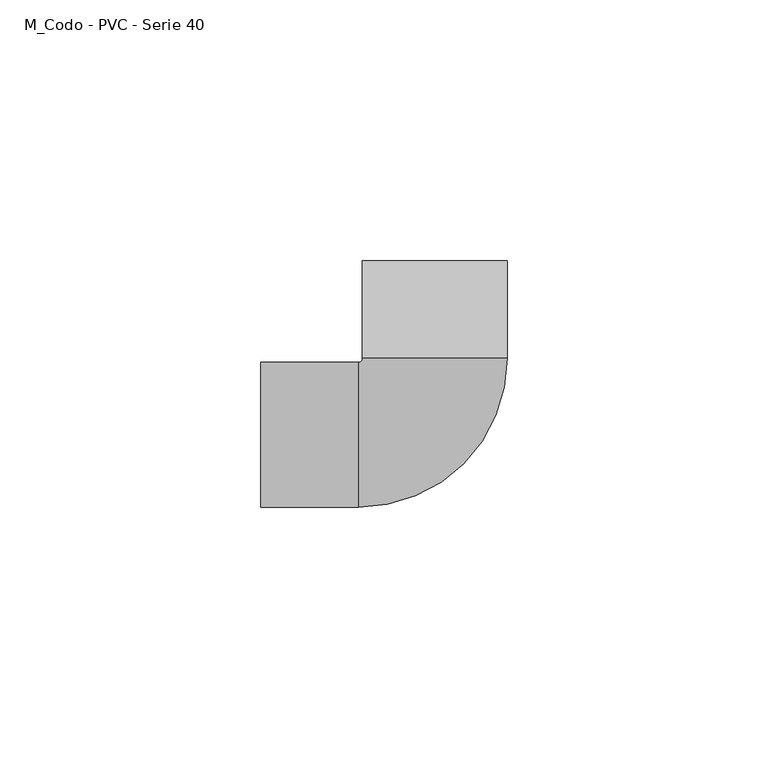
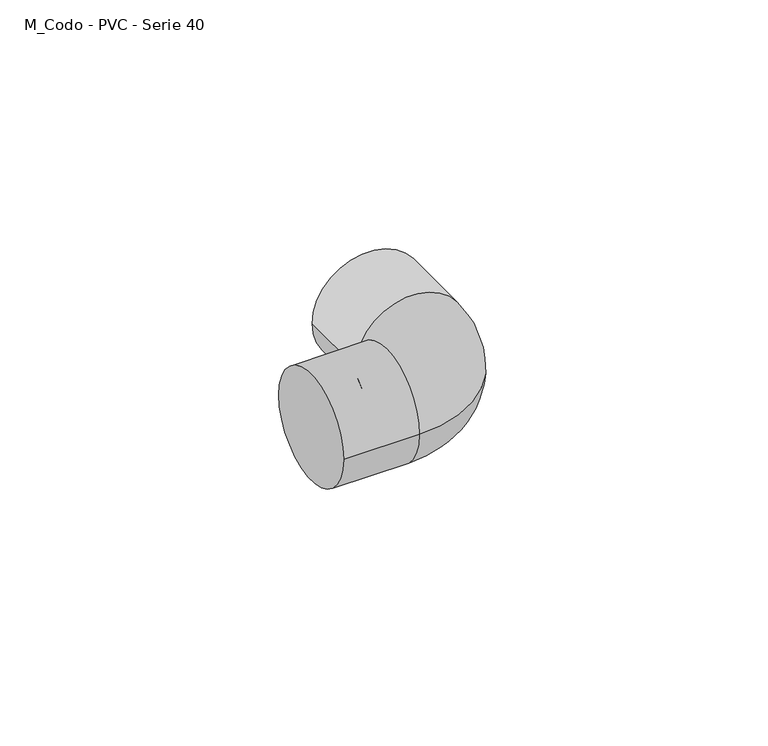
"""IFC4 building model written with IfcOpenShell, lengths in millimetres: pipe fitting geometry, M_Codo - PVC - Serie 40 : Estándar."""

import ifcopenshell
import ifcopenshell.guid

model = None  # the IFC model being written
_history = None  # IfcOwnerHistory: only IFC2X3 demands one
_inside = {}  # id of a spatial element -> (the spatial element, [elements in it])
_under = {}  # id of a project, library or spatial element -> (it, [spatial elements below it])
_declared = {}  # id of a project -> (the project, [libraries it declares])
_typed = {}  # id of a type object -> (the type object, [elements of that type])
_made_of = {}  # id of a material, layer set ... -> (it, [elements and type objects made of it])


def new_model(schema):
    """Start an empty IFC model of exactly this schema.

    Asked for "IFC4X3", IfcOpenShell would pick the latest addendum, in which some entities
    have other attributes; the version numbers below select the first issue.
    IFC2X3 requires an IfcOwnerHistory on every rooted entity: one is made here for all.
    """
    global model, _history
    if schema == "IFC4X3":
        model = ifcopenshell.file(schema_version=(4, 3, 0, 0))
    else:
        model = ifcopenshell.file(schema=schema)
    _inside.clear()
    _under.clear()
    _declared.clear()
    _typed.clear()
    _made_of.clear()
    _history = None
    if model.schema == "IFC2X3":
        org = make("IfcOrganization", Name="unknown")
        user = make(
            "IfcPersonAndOrganization",
            ThePerson=make("IfcPerson", FamilyName="unknown"),
            TheOrganization=org,
        )
        app = make(
            "IfcApplication",
            ApplicationDeveloper=org,
            Version="unknown",
            ApplicationFullName="unknown",
            ApplicationIdentifier="unknown",
        )
        _history = make(
            "IfcOwnerHistory",
            OwningUser=user,
            OwningApplication=app,
            ChangeAction="ADDED",
            CreationDate=0,
        )
    return model


def make(cls, **values):
    """One entity of the class cls with the attributes given. An attribute that is None is left unset."""
    return model.create_entity(
        cls, **{name: value for name, value in values.items() if value is not None}
    )


def rooted(cls, **values):
    """An entity with a GlobalId (a new one), such as an element, a storey or a relation."""
    return make(cls, GlobalId=ifcopenshell.guid.new(), OwnerHistory=_history, **values)


def si_unit(unit_type, name, prefix=None):
    """IfcSIUnit, for example si_unit("LENGTHUNIT", "METRE", prefix="MILLI")."""
    return make("IfcSIUnit", UnitType=unit_type, Prefix=prefix, Name=name)


def assignment(units):
    """IfcUnitAssignment: the units of a project."""
    return None if units is None else make("IfcUnitAssignment", Units=units)


def point(xyz):
    """IfcCartesianPoint."""
    return None if xyz is None else make("IfcCartesianPoint", Coordinates=xyz)


def direction(xyz):
    """IfcDirection."""
    return None if xyz is None else make("IfcDirection", DirectionRatios=xyz)


def frame(location, z_axis=None, x_axis=None):
    """IfcAxis2Placement3D, a coordinate frame: its origin and axes. An axis left out is left unset."""
    return make(
        "IfcAxis2Placement3D",
        Location=point(location),
        Axis=direction(z_axis),
        RefDirection=direction(x_axis),
    )


def origin():
    """The frame at (0, 0, 0) with its axes left unset."""
    return frame((0.0, 0.0, 0.0))


def place(relative_to, where):
    """IfcLocalPlacement: puts the frame where relative to a parent placement (None: the world)."""
    return make(
        "IfcLocalPlacement", PlacementRelTo=relative_to, RelativePlacement=where
    )


def context(
    kind, dimensions, precision=None, world=None, true_north=None, identifier=None
):
    """IfcGeometricRepresentationContext, for example the 3D "Model" context."""
    return make(
        "IfcGeometricRepresentationContext",
        ContextIdentifier=identifier,
        ContextType=kind,
        CoordinateSpaceDimension=dimensions,
        Precision=precision,
        WorldCoordinateSystem=world,
        TrueNorth=true_north,
    )


def project(units=None, contexts=None):
    """IfcProject with its units and contexts."""
    return rooted(
        "IfcProject",
        Name="project",
        RepresentationContexts=contexts,
        UnitsInContext=assignment(units),
    )


def spatial(cls, under=None, at=None, **own):
    """A site, building, storey or space (cls), placed at a placement, below another one or the project."""
    s = rooted(cls, ObjectPlacement=at, **own)
    if under is not None:
        _under.setdefault(under.id(), (under, []))[1].append(s)
    return s


def circle_curve(where, radius):
    """IfcCircle in the frame where."""
    return make("IfcCircle", Position=where, Radius=radius)


def ellipse_curve(where, semi_axis1, semi_axis2):
    """IfcEllipse in the frame where."""
    return make(
        "IfcEllipse", Position=where, SemiAxis1=semi_axis1, SemiAxis2=semi_axis2
    )


def trimmed(basis, trim1, trim2, sense, master):
    """IfcTrimmedCurve: the piece of a basis curve between two trims."""
    return make(
        "IfcTrimmedCurve",
        BasisCurve=basis,
        Trim1=trim1,
        Trim2=trim2,
        SenseAgreement=sense,
        MasterRepresentation=master,
    )


def shape(context_of_items, identifier, shape_type, items):
    """IfcShapeRepresentation: the items that make up one representation, for example the "Body"."""
    return make(
        "IfcShapeRepresentation",
        ContextOfItems=context_of_items,
        RepresentationIdentifier=identifier,
        RepresentationType=shape_type,
        Items=items,
    )


def source(mapping_origin, context_of_items, identifier, shape_type, items):
    """IfcRepresentationMap: a shape defined once, which mapped items show again and again."""
    return make(
        "IfcRepresentationMap",
        MappingOrigin=mapping_origin,
        MappedRepresentation=shape(context_of_items, identifier, shape_type, items),
    )


def transform(
    local_origin,
    x_axis=None,
    y_axis=None,
    z_axis=None,
    scale=None,
    scale2=None,
    scale3=None,
    uniform=True,
):
    """IfcCartesianTransformationOperator3D, or its non-uniform kind. x_axis, y_axis, z_axis: its Axis1, 2, 3."""
    if uniform:
        return make(
            "IfcCartesianTransformationOperator3D",
            Axis1=direction(x_axis),
            Axis2=direction(y_axis),
            LocalOrigin=point(local_origin),
            Scale=scale,
            Axis3=direction(z_axis),
        )
    return make(
        "IfcCartesianTransformationOperator3DnonUniform",
        Axis1=direction(x_axis),
        Axis2=direction(y_axis),
        LocalOrigin=point(local_origin),
        Scale=scale,
        Axis3=direction(z_axis),
        Scale2=scale2,
        Scale3=scale3,
    )


def mapped(mapping_source, mapping_target):
    """IfcMappedItem: shows the shape of a source again, moved by a transform."""
    return make(
        "IfcMappedItem", MappingSource=mapping_source, MappingTarget=mapping_target
    )


def made_of(thing, what):
    """Note that an element or type object is made of a material, layer set ...; save() writes the relation."""
    if what is not None:
        _made_of.setdefault(what.id(), (what, []))[1].append(thing)
    return thing


def element(
    cls,
    number,
    at=None,
    inside=None,
    cuts=None,
    type_object=None,
    material=None,
    context=None,
    identifier="Body",
    shape_type=None,
    held_by="IfcProductDefinitionShape",
    body=None,
    shapes=None,
    **own,
):
    """One element of the class cls, such as IfcWall. Its Tag is "e" and its number.

    at: its placement. inside: the storey or other place that contains it. cuts: it is an
    opening in that element (IfcRelVoidsElement). A single representation is given by context,
    identifier, shape_type and body (its items); several are given by shapes. held_by: the class
    of the entity that holds the representations. save() writes the other relations.
    """
    e = rooted(cls, Tag="e%d" % number, ObjectPlacement=at, **own)
    if body is not None:
        shapes = [shape(context, identifier, shape_type, body)]
    if shapes is not None:
        e.Representation = make(held_by, Representations=shapes)
    if inside is not None:
        _inside.setdefault(inside.id(), (inside, []))[1].append(e)
    if cuts is not None:
        rooted(
            "IfcRelVoidsElement", RelatingBuildingElement=cuts, RelatedOpeningElement=e
        )
    if type_object is not None:
        _typed.setdefault(type_object.id(), (type_object, []))[1].append(e)
    return made_of(e, material)


def aggregate(whole, parts):
    """IfcRelAggregates: a whole, such as a stair, and the parts it consists of."""
    return rooted("IfcRelAggregates", RelatingObject=whole, RelatedObjects=parts)


def save(model, path):
    """Write the relations noted so far, then the file.

    IfcRelAggregates (storeys below a building ...), IfcRelContainedInSpatialStructure (elements
    in a storey), IfcRelDefinesByType, IfcRelAssociatesMaterial and IfcRelDeclares: one each for
    every whole, place, type object, material and project.
    """
    for whole, parts in _under.values():
        aggregate(whole, parts)
    for where, things in _inside.values():
        rooted(
            "IfcRelContainedInSpatialStructure",
            RelatedElements=things,
            RelatingStructure=where,
        )
    for kind, things in _typed.values():
        rooted("IfcRelDefinesByType", RelatedObjects=things, RelatingType=kind)
    for what, things in _made_of.values():
        rooted("IfcRelAssociatesMaterial", RelatedObjects=things, RelatingMaterial=what)
    for by, libraries in _declared.values():
        rooted("IfcRelDeclares", RelatingContext=by, RelatedDefinitions=libraries)
    model.write(path)


def plane_surface(at):
    """IfcPlane: the flat surface through the origin of the frame at, square to its z axis."""
    return make("IfcPlane", Position=at)


def cylinder_surface(at, radius):
    """IfcCylindricalSurface: all points at the distance radius from the z axis of the frame at."""
    return make("IfcCylindricalSurface", Position=at, Radius=radius)


def revolved_surface(curve, axis_point, axis_direction):
    """IfcSurfaceOfRevolution: the curve turned about the line through axis_point along axis_direction."""
    return make(
        "IfcSurfaceOfRevolution",
        SweptCurve=make("IfcArbitraryOpenProfileDef", ProfileType="CURVE", Curve=curve),
        AxisPosition=make("IfcAxis1Placement", Location=point(axis_point), Axis=direction(axis_direction)),
    )


def advanced_brep(points, edges, surfaces, faces):
    """IfcAdvancedBrep: a solid bounded by faces that lie on surfaces and meet in shared edges.

    An edge is (start, end): straight between two places in points (the first is 0);
    or (start, end, curve); or (start, end, curve, False) where it runs against its curve.
    A face is (place in surfaces, loops), or (place, loops, False) where it looks against
    its surface's normal. A loop lists edges by number (the first is 1), with a minus sign
    where the edge is run from its end to its start. The first loop is the outer one.
    """
    corners = [point(p) for p in points]
    vertices = [make("IfcVertexPoint", VertexGeometry=c) for c in corners]
    made = []
    for start, end, *more in edges:
        made.append(
            make(
                "IfcEdgeCurve",
                EdgeStart=vertices[start],
                EdgeEnd=vertices[end],
                EdgeGeometry=more[0] if more else make("IfcPolyline", Points=[corners[start], corners[end]]),
                SameSense=more[1] if len(more) > 1 else True,
            )
        )
    hull = []
    for where, loops, *sense in faces:
        bounds = []
        for j, loop in enumerate(loops):
            ring = [make("IfcOrientedEdge", EdgeElement=made[abs(k) - 1], Orientation=k > 0) for k in loop]
            bounds.append(
                make(
                    "IfcFaceOuterBound" if j == 0 else "IfcFaceBound",
                    Bound=make("IfcEdgeLoop", EdgeList=ring),
                    Orientation=True,
                )
            )
        hull.append(make("IfcAdvancedFace", Bounds=bounds, FaceSurface=surfaces[where], SameSense=sense[0] if sense else True))
    return make("IfcAdvancedBrep", Outer=make("IfcClosedShell", CfsFaces=hull))


def m_codo_pvc_serie_40_9ad74631(model_context):
    return source(origin(), model_context, "Body", "AdvancedBrep", [
        advanced_brep(
        [(-33.401, -13.8945938, 0.0), (-33.401, 13.8945937, 0.0), (-14.6883437, -13.8945938, 0.0), (-14.6883437, 13.8945937, 0.0), (-13.8945937, 14.6883437, 0.0), (13.8945938, 14.6883437, 0.0), (13.8945938, 33.401, 0.0), (-13.8945937, 33.401, 0.0)],
        [
            (0, 1, circle_curve(frame((-33.401, 0.0, 0.0), z_axis=(-1.0, 0.0, 0.0), x_axis=(0.0, 1.0, 0.0)), 13.8945938)),
            (1, 0, circle_curve(frame((-33.401, 0.0, 0.0), z_axis=(-1.0, 0.0, 0.0), x_axis=(0.0, 1.0, 0.0)), 13.8945938)),
            (0, 2),
            (2, 3, circle_curve(frame((-14.6883437, 0.0, 0.0), z_axis=(-1.0, 0.0, 0.0), x_axis=(0.0, 1.0, 0.0)), 13.8945938)),
            (3, 1),
            (3, 2, circle_curve(frame((-14.6883437, 0.0, 0.0), z_axis=(-1.0, 0.0, 0.0), x_axis=(0.0, 1.0, 0.0)), 13.8945938)),
            (4, 3, circle_curve(frame((-14.6883437, 14.6883437, 0.0), z_axis=(0.0, 0.0, -1.0), x_axis=(0.0, -1.0, 0.0)), 0.79375)),
            (2, 5, circle_curve(frame((-14.6883437, 14.6883437, 0.0), z_axis=(0.0, 0.0, 1.0), x_axis=(0.0, -1.0, 0.0)), 28.5829375)),
            (5, 4, circle_curve(frame((0.0, 14.6883437, 0.0), z_axis=(0.0, -1.0, 0.0), x_axis=(-1.0, 0.0, 0.0)), 13.8945938)),
            (4, 5, circle_curve(frame((0.0, 14.6883437, 0.0), z_axis=(0.0, -1.0, 0.0), x_axis=(-1.0, 0.0, 0.0)), 13.8945938)),
            (6, 7, circle_curve(frame((0.0, 33.401, 0.0), z_axis=(0.0, 1.0, 0.0), x_axis=(-1.0, 0.0, 0.0)), 13.8945938)),
            (7, 6, circle_curve(frame((0.0, 33.401, 0.0), z_axis=(0.0, 1.0, 0.0), x_axis=(-1.0, 0.0, 0.0)), 13.8945938)),
            (5, 6),
            (7, 4),
        ],
        [
            plane_surface(frame((-33.401, 0.0, 0.0), z_axis=(-1.0, 0.0, 0.0), x_axis=(0.0, 0.0, 1.0))),
            cylinder_surface(frame((-33.401, 0.0, 0.0), z_axis=(-1.0, 0.0, 0.0), x_axis=(0.0, 1.0, 0.0)), 13.8945938),
            revolved_surface(trimmed(ellipse_curve(frame((-14.6883437, 0.0, 0.0), z_axis=(-1.0, 0.0, 0.0), x_axis=(0.0, 1.0, 0.0)), 13.8945938, 13.8945938), [point((-14.6883437, -13.8945938, 0.0))], [point((-14.6883437, 13.8945937, 0.0))], True, "CARTESIAN"), (-14.6883437, 14.6883437, 0.0), (0.0, 0.0, 1.0)),
            revolved_surface(trimmed(ellipse_curve(frame((-14.6883437, 0.0, 0.0), z_axis=(-1.0, 0.0, 0.0), x_axis=(0.0, 1.0, 0.0)), 13.8945938, 13.8945938), [point((-14.6883437, 13.8945937, 0.0))], [point((-14.6883437, -13.8945938, 0.0))], True, "CARTESIAN"), (-14.6883437, 14.6883437, 0.0), (0.0, 0.0, 1.0)),
            plane_surface(frame((0.0, 33.401, 0.0), z_axis=(0.0, 1.0, 0.0), x_axis=(0.0, 0.0, 1.0))),
            cylinder_surface(frame((0.0, 14.6883437, 0.0), z_axis=(0.0, -1.0, 0.0), x_axis=(-1.0, 0.0, 0.0)), 13.8945938),
        ],
        [
            (0, [[1, 2]]),
            (1, [[-1, 3, 4, 5]]),
            (1, [[-2, -5, 6, -3]]),
            (2, [[7, -4, 8, 9]]),
            (3, [[-8, -6, -7, 10]]),
            (4, [[11, 12]]),
            (5, [[-9, 13, -12, 14]]),
            (5, [[-10, -14, -11, -13]]),
        ],
    ),
    ])


if __name__ == "__main__":
    model = new_model("IFC4")
    model_context = context("Model", 3, world=origin())
    ifc_project = project(units=[si_unit("LENGTHUNIT", "METRE", prefix="MILLI")], contexts=[model_context])
    site = spatial("IfcSite", under=ifc_project)
    building = spatial("IfcBuilding", under=site)
    placement = place(None, origin())
    m_codo_pvc_serie_40_shape = m_codo_pvc_serie_40_9ad74631(model_context)
    element("IfcPipeFitting", 1, ObjectType="M_Codo - PVC - Serie 40 : Estándar", at=placement, inside=building, context=model_context, shape_type="MappedRepresentation", body=[
        mapped(m_codo_pvc_serie_40_shape, transform((0.0, 0.0, 0.0), x_axis=(1.0, 0.0, 0.0), y_axis=(0.0, 1.0, 0.0), z_axis=(0.0, 0.0, 1.0))),
    ])
    save(model, "model.ifc")
